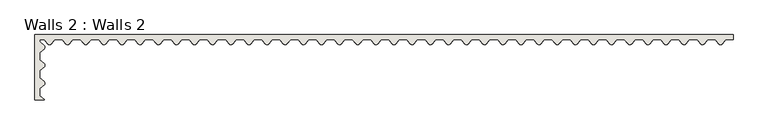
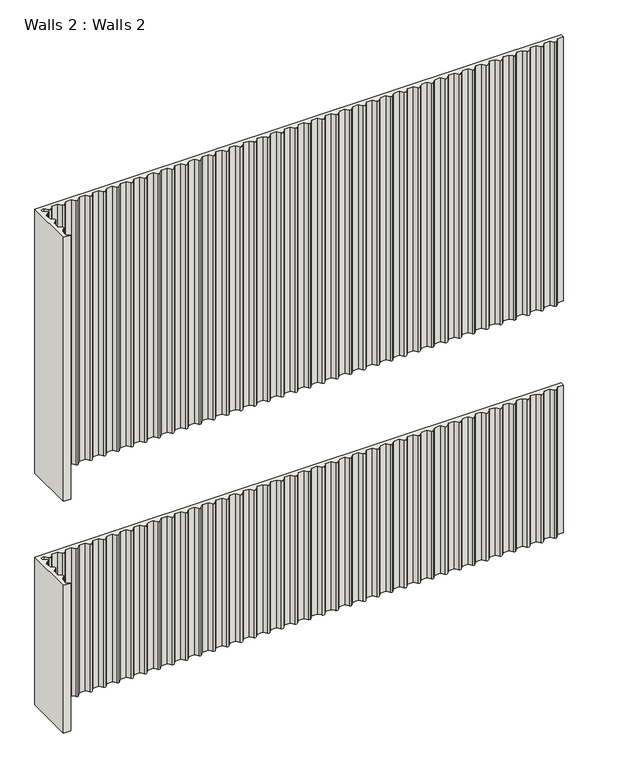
"""IFC4 building model written with IfcOpenShell, lengths in millimetres: wall geometry, Walls 2 : Walls 2."""

from ifc_helpers import new_model, si_unit, point, frame, frame_2d, origin, place, context, project, spatial, polyline, circle_curve, trimmed, segment, composite_curve, outline, extrude, source, transform, mapped, element, save


def walls_2_walls_2_54b32427(model_context):
    return source(origin(), model_context, "Body", "SweptSolid", [
        extrude(outline(composite_curve([segment(polyline([(1690.6584713, -3881.9389803), (6310.6584713, -3881.9389803), (6310.6584713, -3913.7389803), (6262.0428557, -3913.7389803), (6238.5335223, -3941.7563128)]), True, "CONTINUOUS"), segment(trimmed(circle_curve(frame_2d((6227.0428557, -3932.1144987)), 15.0), [point((6238.5335223, -3941.7563128))], [point((6215.552189, -3941.7563128))], False, "CARTESIAN"), True, "CONTINUOUS"), segment(polyline([(6215.552189, -3941.7563128), (6192.0428557, -3913.7389803), (6142.0428557, -3913.7389803), (6118.5335223, -3941.7563128)]), True, "CONTINUOUS"), segment(trimmed(circle_curve(frame_2d((6107.0428557, -3932.1144987)), 15.0), [point((6118.5335223, -3941.7563128))], [point((6095.552189, -3941.7563128))], False, "CARTESIAN"), True, "CONTINUOUS"), segment(polyline([(6095.552189, -3941.7563128), (6072.0428557, -3913.7389803), (6022.0428557, -3913.7389803), (5998.5335223, -3941.7563128)]), True, "CONTINUOUS"), segment(trimmed(circle_curve(frame_2d((5987.0428557, -3932.1144987)), 15.0), [point((5998.5335223, -3941.7563128))], [point((5975.552189, -3941.7563128))], False, "CARTESIAN"), True, "CONTINUOUS"), segment(polyline([(5975.552189, -3941.7563128), (5952.0428557, -3913.7389803), (5902.0428557, -3913.7389803), (5878.5335223, -3941.7563128)]), True, "CONTINUOUS"), segment(trimmed(circle_curve(frame_2d((5867.0428557, -3932.1144987)), 15.0), [point((5878.5335223, -3941.7563128))], [point((5855.552189, -3941.7563128))], False, "CARTESIAN"), True, "CONTINUOUS"), segment(polyline([(5855.552189, -3941.7563128), (5832.0428557, -3913.7389803), (5782.0428557, -3913.7389803), (5758.5335223, -3941.7563128)]), True, "CONTINUOUS"), segment(trimmed(circle_curve(frame_2d((5747.0428557, -3932.1144987)), 15.0), [point((5758.5335223, -3941.7563128))], [point((5735.552189, -3941.7563128))], False, "CARTESIAN"), True, "CONTINUOUS"), segment(polyline([(5735.552189, -3941.7563128), (5712.0428557, -3913.7389803), (5662.0428557, -3913.7389803), (5638.5335223, -3941.7563128)]), True, "CONTINUOUS"), segment(trimmed(circle_curve(frame_2d((5627.0428557, -3932.1144987)), 15.0), [point((5638.5335223, -3941.7563128))], [point((5615.552189, -3941.7563128))], False, "CARTESIAN"), True, "CONTINUOUS"), segment(polyline([(5615.552189, -3941.7563128), (5592.0428557, -3913.7389803), (5542.0428557, -3913.7389803), (5518.5335223, -3941.7563128)]), True, "CONTINUOUS"), segment(trimmed(circle_curve(frame_2d((5507.0428557, -3932.1144987)), 15.0), [point((5518.5335223, -3941.7563128))], [point((5495.552189, -3941.7563128))], False, "CARTESIAN"), True, "CONTINUOUS"), segment(polyline([(5495.552189, -3941.7563128), (5472.0428557, -3913.7389803), (5422.0428557, -3913.7389803), (5398.5335223, -3941.7563128)]), True, "CONTINUOUS"), segment(trimmed(circle_curve(frame_2d((5387.0428557, -3932.1144987)), 15.0), [point((5398.5335223, -3941.7563128))], [point((5375.552189, -3941.7563128))], False, "CARTESIAN"), True, "CONTINUOUS"), segment(polyline([(5375.552189, -3941.7563128), (5352.0428557, -3913.7389803), (5302.0428557, -3913.7389803), (5278.5335223, -3941.7563128)]), True, "CONTINUOUS"), segment(trimmed(circle_curve(frame_2d((5267.0428557, -3932.1144987)), 15.0), [point((5278.5335223, -3941.7563128))], [point((5255.552189, -3941.7563128))], False, "CARTESIAN"), True, "CONTINUOUS"), segment(polyline([(5255.552189, -3941.7563128), (5232.0428557, -3913.7389803), (5182.0428557, -3913.7389803), (5158.5335223, -3941.7563128)]), True, "CONTINUOUS"), segment(trimmed(circle_curve(frame_2d((5147.0428557, -3932.1144987)), 15.0), [point((5158.5335223, -3941.7563128))], [point((5135.552189, -3941.7563128))], False, "CARTESIAN"), True, "CONTINUOUS"), segment(polyline([(5135.552189, -3941.7563128), (5112.0428557, -3913.7389803), (5062.0428557, -3913.7389803), (5038.5335223, -3941.7563128)]), True, "CONTINUOUS"), segment(trimmed(circle_curve(frame_2d((5027.0428557, -3932.1144987)), 15.0), [point((5038.5335223, -3941.7563128))], [point((5015.552189, -3941.7563128))], False, "CARTESIAN"), True, "CONTINUOUS"), segment(polyline([(5015.552189, -3941.7563128), (4992.0428557, -3913.7389803), (4942.0428557, -3913.7389803), (4918.5335223, -3941.7563128)]), True, "CONTINUOUS"), segment(trimmed(circle_curve(frame_2d((4907.0428557, -3932.1144987)), 15.0), [point((4918.5335223, -3941.7563128))], [point((4895.552189, -3941.7563128))], False, "CARTESIAN"), True, "CONTINUOUS"), segment(polyline([(4895.552189, -3941.7563128), (4872.0428557, -3913.7389803), (4822.0428557, -3913.7389803), (4798.5335223, -3941.7563128)]), True, "CONTINUOUS"), segment(trimmed(circle_curve(frame_2d((4787.0428557, -3932.1144987)), 15.0), [point((4798.5335223, -3941.7563128))], [point((4775.552189, -3941.7563128))], False, "CARTESIAN"), True, "CONTINUOUS"), segment(polyline([(4775.552189, -3941.7563128), (4752.0428557, -3913.7389803), (4702.0428557, -3913.7389803), (4678.5335223, -3941.7563128)]), True, "CONTINUOUS"), segment(trimmed(circle_curve(frame_2d((4667.0428557, -3932.1144987)), 15.0), [point((4678.5335223, -3941.7563128))], [point((4655.552189, -3941.7563128))], False, "CARTESIAN"), True, "CONTINUOUS"), segment(polyline([(4655.552189, -3941.7563128), (4632.0428557, -3913.7389803), (4582.0428557, -3913.7389803), (4558.5335223, -3941.7563128)]), True, "CONTINUOUS"), segment(trimmed(circle_curve(frame_2d((4547.0428557, -3932.1144987)), 15.0), [point((4558.5335223, -3941.7563128))], [point((4535.552189, -3941.7563128))], False, "CARTESIAN"), True, "CONTINUOUS"), segment(polyline([(4535.552189, -3941.7563128), (4512.0428557, -3913.7389803), (4462.0428557, -3913.7389803), (4438.5335223, -3941.7563128)]), True, "CONTINUOUS"), segment(trimmed(circle_curve(frame_2d((4427.0428557, -3932.1144987)), 15.0), [point((4438.5335223, -3941.7563128))], [point((4415.552189, -3941.7563128))], False, "CARTESIAN"), True, "CONTINUOUS"), segment(polyline([(4415.552189, -3941.7563128), (4392.0428557, -3913.7389803), (4342.0428557, -3913.7389803), (4318.5335223, -3941.7563128)]), True, "CONTINUOUS"), segment(trimmed(circle_curve(frame_2d((4307.0428557, -3932.1144987)), 15.0), [point((4318.5335223, -3941.7563128))], [point((4295.552189, -3941.7563128))], False, "CARTESIAN"), True, "CONTINUOUS"), segment(polyline([(4295.552189, -3941.7563128), (4272.0428557, -3913.7389803), (4222.0428557, -3913.7389803), (4198.5335223, -3941.7563128)]), True, "CONTINUOUS"), segment(trimmed(circle_curve(frame_2d((4187.0428557, -3932.1144987)), 15.0), [point((4198.5335223, -3941.7563128))], [point((4175.552189, -3941.7563128))], False, "CARTESIAN"), True, "CONTINUOUS"), segment(polyline([(4175.552189, -3941.7563128), (4152.0428557, -3913.7389803), (4102.0428557, -3913.7389803), (4078.5335223, -3941.7563128)]), True, "CONTINUOUS"), segment(trimmed(circle_curve(frame_2d((4067.0428557, -3932.1144987)), 15.0), [point((4078.5335223, -3941.7563128))], [point((4055.552189, -3941.7563128))], False, "CARTESIAN"), True, "CONTINUOUS"), segment(polyline([(4055.552189, -3941.7563128), (4032.0428557, -3913.7389803), (3982.0428557, -3913.7389803), (3958.5335223, -3941.7563128)]), True, "CONTINUOUS"), segment(trimmed(circle_curve(frame_2d((3947.0428557, -3932.1144987)), 15.0), [point((3958.5335223, -3941.7563128))], [point((3935.552189, -3941.7563128))], False, "CARTESIAN"), True, "CONTINUOUS"), segment(polyline([(3935.552189, -3941.7563128), (3912.0428557, -3913.7389803), (3862.0428557, -3913.7389803), (3838.5335223, -3941.7563128)]), True, "CONTINUOUS"), segment(trimmed(circle_curve(frame_2d((3827.0428557, -3932.1144987)), 15.0), [point((3838.5335223, -3941.7563128))], [point((3815.552189, -3941.7563128))], False, "CARTESIAN"), True, "CONTINUOUS"), segment(polyline([(3815.552189, -3941.7563128), (3792.0428557, -3913.7389803), (3742.0428557, -3913.7389803), (3718.5335223, -3941.7563128)]), True, "CONTINUOUS"), segment(trimmed(circle_curve(frame_2d((3707.0428557, -3932.1144987)), 15.0), [point((3718.5335223, -3941.7563128))], [point((3695.552189, -3941.7563128))], False, "CARTESIAN"), True, "CONTINUOUS"), segment(polyline([(3695.552189, -3941.7563128), (3672.0428557, -3913.7389803), (3622.0428557, -3913.7389803), (3598.5335223, -3941.7563128)]), True, "CONTINUOUS"), segment(trimmed(circle_curve(frame_2d((3587.0428557, -3932.1144987)), 15.0), [point((3598.5335223, -3941.7563128))], [point((3575.552189, -3941.7563128))], False, "CARTESIAN"), True, "CONTINUOUS"), segment(polyline([(3575.552189, -3941.7563128), (3552.0428557, -3913.7389803), (3502.0428557, -3913.7389803), (3478.5335223, -3941.7563128)]), True, "CONTINUOUS"), segment(trimmed(circle_curve(frame_2d((3467.0428557, -3932.1144987)), 15.0), [point((3478.5335223, -3941.7563128))], [point((3455.552189, -3941.7563128))], False, "CARTESIAN"), True, "CONTINUOUS"), segment(polyline([(3455.552189, -3941.7563128), (3432.0428557, -3913.7389803), (3382.0428557, -3913.7389803), (3358.5335223, -3941.7563128)]), True, "CONTINUOUS"), segment(trimmed(circle_curve(frame_2d((3347.0428557, -3932.1144987)), 15.0), [point((3358.5335223, -3941.7563128))], [point((3335.552189, -3941.7563128))], False, "CARTESIAN"), True, "CONTINUOUS"), segment(polyline([(3335.552189, -3941.7563128), (3312.0428557, -3913.7389803), (3262.0428557, -3913.7389803), (3238.5335223, -3941.7563128)]), True, "CONTINUOUS"), segment(trimmed(circle_curve(frame_2d((3227.0428557, -3932.1144987)), 15.0), [point((3238.5335223, -3941.7563128))], [point((3215.552189, -3941.7563128))], False, "CARTESIAN"), True, "CONTINUOUS"), segment(polyline([(3215.552189, -3941.7563128), (3192.0428557, -3913.7389803), (3142.0428557, -3913.7389803), (3118.5335223, -3941.7563128)]), True, "CONTINUOUS"), segment(trimmed(circle_curve(frame_2d((3107.0428557, -3932.1144987)), 15.0), [point((3118.5335223, -3941.7563128))], [point((3095.552189, -3941.7563128))], False, "CARTESIAN"), True, "CONTINUOUS"), segment(polyline([(3095.552189, -3941.7563128), (3072.0428557, -3913.7389803), (3022.0428557, -3913.7389803), (2998.5335223, -3941.7563128)]), True, "CONTINUOUS"), segment(trimmed(circle_curve(frame_2d((2987.0428557, -3932.1144987)), 15.0), [point((2998.5335223, -3941.7563128))], [point((2975.552189, -3941.7563128))], False, "CARTESIAN"), True, "CONTINUOUS"), segment(polyline([(2975.552189, -3941.7563128), (2952.0428557, -3913.7389803), (2902.0428557, -3913.7389803), (2878.5335223, -3941.7563128)]), True, "CONTINUOUS"), segment(trimmed(circle_curve(frame_2d((2867.0428557, -3932.1144987)), 15.0), [point((2878.5335223, -3941.7563128))], [point((2855.552189, -3941.7563128))], False, "CARTESIAN"), True, "CONTINUOUS"), segment(polyline([(2855.552189, -3941.7563128), (2832.0428557, -3913.7389803), (2782.0428557, -3913.7389803), (2758.5335223, -3941.7563128)]), True, "CONTINUOUS"), segment(trimmed(circle_curve(frame_2d((2747.0428557, -3932.1144987)), 15.0), [point((2758.5335223, -3941.7563128))], [point((2735.552189, -3941.7563128))], False, "CARTESIAN"), True, "CONTINUOUS"), segment(polyline([(2735.552189, -3941.7563128), (2712.0428557, -3913.7389803), (2662.0428557, -3913.7389803), (2638.5335223, -3941.7563128)]), True, "CONTINUOUS"), segment(trimmed(circle_curve(frame_2d((2627.0428557, -3932.1144987)), 15.0), [point((2638.5335223, -3941.7563128))], [point((2615.552189, -3941.7563128))], False, "CARTESIAN"), True, "CONTINUOUS"), segment(polyline([(2615.552189, -3941.7563128), (2592.0428557, -3913.7389803), (2542.0428557, -3913.7389803), (2518.5335223, -3941.7563128)]), True, "CONTINUOUS"), segment(trimmed(circle_curve(frame_2d((2507.0428557, -3932.1144987)), 15.0), [point((2518.5335223, -3941.7563128))], [point((2495.552189, -3941.7563128))], False, "CARTESIAN"), True, "CONTINUOUS"), segment(polyline([(2495.552189, -3941.7563128), (2472.0428557, -3913.7389803), (2422.0428557, -3913.7389803), (2398.5335223, -3941.7563128)]), True, "CONTINUOUS"), segment(trimmed(circle_curve(frame_2d((2387.0428557, -3932.1144987)), 15.0), [point((2398.5335223, -3941.7563128))], [point((2375.552189, -3941.7563128))], False, "CARTESIAN"), True, "CONTINUOUS"), segment(polyline([(2375.552189, -3941.7563128), (2352.0428557, -3913.7389803), (2302.0428557, -3913.7389803), (2278.5335223, -3941.7563128)]), True, "CONTINUOUS"), segment(trimmed(circle_curve(frame_2d((2267.0428557, -3932.1144987)), 15.0), [point((2278.5335223, -3941.7563128))], [point((2255.552189, -3941.7563128))], False, "CARTESIAN"), True, "CONTINUOUS"), segment(polyline([(2255.552189, -3941.7563128), (2232.0428557, -3913.7389803), (2182.0428557, -3913.7389803), (2158.5335223, -3941.7563128)]), True, "CONTINUOUS"), segment(trimmed(circle_curve(frame_2d((2147.0428557, -3932.1144987)), 15.0), [point((2158.5335223, -3941.7563128))], [point((2135.552189, -3941.7563128))], False, "CARTESIAN"), True, "CONTINUOUS"), segment(polyline([(2135.552189, -3941.7563128), (2112.0428557, -3913.7389803), (2062.0428557, -3913.7389803), (2038.5335223, -3941.7563128)]), True, "CONTINUOUS"), segment(trimmed(circle_curve(frame_2d((2027.0428557, -3932.1144987)), 15.0), [point((2038.5335223, -3941.7563128))], [point((2015.552189, -3941.7563128))], False, "CARTESIAN"), True, "CONTINUOUS"), segment(polyline([(2015.552189, -3941.7563128), (1992.0428557, -3913.7389803), (1942.0428557, -3913.7389803), (1918.5335223, -3941.7563128)]), True, "CONTINUOUS"), segment(trimmed(circle_curve(frame_2d((1907.0428557, -3932.1144987)), 15.0), [point((1918.5335223, -3941.7563128))], [point((1895.552189, -3941.7563128))], False, "CARTESIAN"), True, "CONTINUOUS"), segment(polyline([(1895.552189, -3941.7563128), (1872.0428557, -3913.7389803), (1822.0428557, -3913.7389803), (1798.5335223, -3941.7563128)]), True, "CONTINUOUS"), segment(trimmed(circle_curve(frame_2d((1787.0428557, -3932.1144987)), 15.0), [point((1798.5335223, -3941.7563128))], [point((1775.552189, -3941.7563128))], False, "CARTESIAN"), True, "CONTINUOUS"), segment(polyline([(1775.552189, -3941.7563128), (1752.0428557, -3913.7389803), (1722.4584713, -3913.7389803), (1722.4584713, -3928.3781537), (1751.4142148, -3952.8014551)]), True, "CONTINUOUS"), segment(trimmed(circle_curve(frame_2d((1741.7430261, -3964.2674095)), 15.0), [point((1751.4142148, -3952.8014551))], [point((1751.3554026, -3975.7827132))], False, "CARTESIAN"), True, "CONTINUOUS"), segment(polyline([(1751.3554026, -3975.7827132), (1723.2779984, -3999.2202695), (1723.1500419, -4049.2201058), (1751.1071191, -4072.8010622)]), True, "CONTINUOUS"), segment(trimmed(circle_curve(frame_2d((1741.4359305, -4084.2670165)), 15.0), [point((1751.1071191, -4072.8010622))], [point((1751.0483069, -4095.7823202))], False, "CARTESIAN"), True, "CONTINUOUS"), segment(polyline([(1751.0483069, -4095.7823202), (1723.2779984, -4118.9635291), (1723.1500419, -4168.9633653), (1751.1071191, -4192.5443217)]), True, "CONTINUOUS"), segment(trimmed(circle_curve(frame_2d((1741.4359305, -4204.0102761)), 15.0), [point((1751.1071191, -4192.5443217))], [point((1751.0483069, -4215.5255798))], False, "CARTESIAN"), True, "CONTINUOUS"), segment(polyline([(1751.0483069, -4215.5255798), (1723.2779984, -4238.7067886), (1723.1500419, -4288.7066249), (1751.1071191, -4312.2875813)]), True, "CONTINUOUS"), segment(trimmed(circle_curve(frame_2d((1741.4359305, -4323.7535356)), 15.0), [point((1751.1071191, -4312.2875813))], [point((1753.3910572, -4314.6940133))], False, "CARTESIAN"), True, "CONTINUOUS"), segment(polyline([(1753.3910572, -4314.6940133), (1690.6584713, -4314.6940133), (1690.6584713, -3881.9389803)]), True, "CONTINUOUS")], self_intersect=False)), frame((0.0, 0.0, -2000.0), z_axis=(0.0, 0.0, 1.0), x_axis=(1.0, 0.0, 0.0)), (0.0, 0.0, 1.0), 1370.0),
        extrude(outline(composite_curve([segment(polyline([(1690.6584713, -4314.6940133), (1690.6584713, -3881.9389803), (6310.6584713, -3881.9389803), (6310.6584713, -3913.7389803), (6262.0428557, -3913.7389803), (6238.5335223, -3941.7563128)]), True, "CONTINUOUS"), segment(trimmed(circle_curve(frame_2d((6227.0428557, -3932.1144987)), 15.0), [point((6238.5335223, -3941.7563128))], [point((6215.552189, -3941.7563128))], False, "CARTESIAN"), True, "CONTINUOUS"), segment(polyline([(6215.552189, -3941.7563128), (6192.0428557, -3913.7389803), (6142.0428557, -3913.7389803), (6118.5335223, -3941.7563128)]), True, "CONTINUOUS"), segment(trimmed(circle_curve(frame_2d((6107.0428557, -3932.1144987)), 15.0), [point((6118.5335223, -3941.7563128))], [point((6095.552189, -3941.7563128))], False, "CARTESIAN"), True, "CONTINUOUS"), segment(polyline([(6095.552189, -3941.7563128), (6072.0428557, -3913.7389803), (6022.0428557, -3913.7389803), (5998.5335223, -3941.7563128)]), True, "CONTINUOUS"), segment(trimmed(circle_curve(frame_2d((5987.0428557, -3932.1144987)), 15.0), [point((5998.5335223, -3941.7563128))], [point((5975.552189, -3941.7563128))], False, "CARTESIAN"), True, "CONTINUOUS"), segment(polyline([(5975.552189, -3941.7563128), (5952.0428557, -3913.7389803), (5902.0428557, -3913.7389803), (5878.5335223, -3941.7563128)]), True, "CONTINUOUS"), segment(trimmed(circle_curve(frame_2d((5867.0428557, -3932.1144987)), 15.0), [point((5878.5335223, -3941.7563128))], [point((5855.552189, -3941.7563128))], False, "CARTESIAN"), True, "CONTINUOUS"), segment(polyline([(5855.552189, -3941.7563128), (5832.0428557, -3913.7389803), (5782.0428557, -3913.7389803), (5758.5335223, -3941.7563128)]), True, "CONTINUOUS"), segment(trimmed(circle_curve(frame_2d((5747.0428557, -3932.1144987)), 15.0), [point((5758.5335223, -3941.7563128))], [point((5735.552189, -3941.7563128))], False, "CARTESIAN"), True, "CONTINUOUS"), segment(polyline([(5735.552189, -3941.7563128), (5712.0428557, -3913.7389803), (5662.0428557, -3913.7389803), (5638.5335223, -3941.7563128)]), True, "CONTINUOUS"), segment(trimmed(circle_curve(frame_2d((5627.0428557, -3932.1144987)), 15.0), [point((5638.5335223, -3941.7563128))], [point((5615.552189, -3941.7563128))], False, "CARTESIAN"), True, "CONTINUOUS"), segment(polyline([(5615.552189, -3941.7563128), (5592.0428557, -3913.7389803), (5542.0428557, -3913.7389803), (5518.5335223, -3941.7563128)]), True, "CONTINUOUS"), segment(trimmed(circle_curve(frame_2d((5507.0428557, -3932.1144987)), 15.0), [point((5518.5335223, -3941.7563128))], [point((5495.552189, -3941.7563128))], False, "CARTESIAN"), True, "CONTINUOUS"), segment(polyline([(5495.552189, -3941.7563128), (5472.0428557, -3913.7389803), (5422.0428557, -3913.7389803), (5398.5335223, -3941.7563128)]), True, "CONTINUOUS"), segment(trimmed(circle_curve(frame_2d((5387.0428557, -3932.1144987)), 15.0), [point((5398.5335223, -3941.7563128))], [point((5375.552189, -3941.7563128))], False, "CARTESIAN"), True, "CONTINUOUS"), segment(polyline([(5375.552189, -3941.7563128), (5352.0428557, -3913.7389803), (5302.0428557, -3913.7389803), (5278.5335223, -3941.7563128)]), True, "CONTINUOUS"), segment(trimmed(circle_curve(frame_2d((5267.0428557, -3932.1144987)), 15.0), [point((5278.5335223, -3941.7563128))], [point((5255.552189, -3941.7563128))], False, "CARTESIAN"), True, "CONTINUOUS"), segment(polyline([(5255.552189, -3941.7563128), (5232.0428557, -3913.7389803), (5182.0428557, -3913.7389803), (5158.5335223, -3941.7563128)]), True, "CONTINUOUS"), segment(trimmed(circle_curve(frame_2d((5147.0428557, -3932.1144987)), 15.0), [point((5158.5335223, -3941.7563128))], [point((5135.552189, -3941.7563128))], False, "CARTESIAN"), True, "CONTINUOUS"), segment(polyline([(5135.552189, -3941.7563128), (5112.0428557, -3913.7389803), (5062.0428557, -3913.7389803), (5038.5335223, -3941.7563128)]), True, "CONTINUOUS"), segment(trimmed(circle_curve(frame_2d((5027.0428557, -3932.1144987)), 15.0), [point((5038.5335223, -3941.7563128))], [point((5015.552189, -3941.7563128))], False, "CARTESIAN"), True, "CONTINUOUS"), segment(polyline([(5015.552189, -3941.7563128), (4992.0428557, -3913.7389803), (4942.0428557, -3913.7389803), (4918.5335223, -3941.7563128)]), True, "CONTINUOUS"), segment(trimmed(circle_curve(frame_2d((4907.0428557, -3932.1144987)), 15.0), [point((4918.5335223, -3941.7563128))], [point((4895.552189, -3941.7563128))], False, "CARTESIAN"), True, "CONTINUOUS"), segment(polyline([(4895.552189, -3941.7563128), (4872.0428557, -3913.7389803), (4822.0428557, -3913.7389803), (4798.5335223, -3941.7563128)]), True, "CONTINUOUS"), segment(trimmed(circle_curve(frame_2d((4787.0428557, -3932.1144987)), 15.0), [point((4798.5335223, -3941.7563128))], [point((4775.552189, -3941.7563128))], False, "CARTESIAN"), True, "CONTINUOUS"), segment(polyline([(4775.552189, -3941.7563128), (4752.0428557, -3913.7389803), (4702.0428557, -3913.7389803), (4678.5335223, -3941.7563128)]), True, "CONTINUOUS"), segment(trimmed(circle_curve(frame_2d((4667.0428557, -3932.1144987)), 15.0), [point((4678.5335223, -3941.7563128))], [point((4655.552189, -3941.7563128))], False, "CARTESIAN"), True, "CONTINUOUS"), segment(polyline([(4655.552189, -3941.7563128), (4632.0428557, -3913.7389803), (4582.0428557, -3913.7389803), (4558.5335223, -3941.7563128)]), True, "CONTINUOUS"), segment(trimmed(circle_curve(frame_2d((4547.0428557, -3932.1144987)), 15.0), [point((4558.5335223, -3941.7563128))], [point((4535.552189, -3941.7563128))], False, "CARTESIAN"), True, "CONTINUOUS"), segment(polyline([(4535.552189, -3941.7563128), (4512.0428557, -3913.7389803), (4462.0428557, -3913.7389803), (4438.5335223, -3941.7563128)]), True, "CONTINUOUS"), segment(trimmed(circle_curve(frame_2d((4427.0428557, -3932.1144987)), 15.0), [point((4438.5335223, -3941.7563128))], [point((4415.552189, -3941.7563128))], False, "CARTESIAN"), True, "CONTINUOUS"), segment(polyline([(4415.552189, -3941.7563128), (4392.0428557, -3913.7389803), (4342.0428557, -3913.7389803), (4318.5335223, -3941.7563128)]), True, "CONTINUOUS"), segment(trimmed(circle_curve(frame_2d((4307.0428557, -3932.1144987)), 15.0), [point((4318.5335223, -3941.7563128))], [point((4295.552189, -3941.7563128))], False, "CARTESIAN"), True, "CONTINUOUS"), segment(polyline([(4295.552189, -3941.7563128), (4272.0428557, -3913.7389803), (4222.0428557, -3913.7389803), (4198.5335223, -3941.7563128)]), True, "CONTINUOUS"), segment(trimmed(circle_curve(frame_2d((4187.0428557, -3932.1144987)), 15.0), [point((4198.5335223, -3941.7563128))], [point((4175.552189, -3941.7563128))], False, "CARTESIAN"), True, "CONTINUOUS"), segment(polyline([(4175.552189, -3941.7563128), (4152.0428557, -3913.7389803), (4102.0428557, -3913.7389803), (4078.5335223, -3941.7563128)]), True, "CONTINUOUS"), segment(trimmed(circle_curve(frame_2d((4067.0428557, -3932.1144987)), 15.0), [point((4078.5335223, -3941.7563128))], [point((4055.552189, -3941.7563128))], False, "CARTESIAN"), True, "CONTINUOUS"), segment(polyline([(4055.552189, -3941.7563128), (4032.0428557, -3913.7389803), (3982.0428557, -3913.7389803), (3958.5335223, -3941.7563128)]), True, "CONTINUOUS"), segment(trimmed(circle_curve(frame_2d((3947.0428557, -3932.1144987)), 15.0), [point((3958.5335223, -3941.7563128))], [point((3935.552189, -3941.7563128))], False, "CARTESIAN"), True, "CONTINUOUS"), segment(polyline([(3935.552189, -3941.7563128), (3912.0428557, -3913.7389803), (3862.0428557, -3913.7389803), (3838.5335223, -3941.7563128)]), True, "CONTINUOUS"), segment(trimmed(circle_curve(frame_2d((3827.0428557, -3932.1144987)), 15.0), [point((3838.5335223, -3941.7563128))], [point((3815.552189, -3941.7563128))], False, "CARTESIAN"), True, "CONTINUOUS"), segment(polyline([(3815.552189, -3941.7563128), (3792.0428557, -3913.7389803), (3742.0428557, -3913.7389803), (3718.5335223, -3941.7563128)]), True, "CONTINUOUS"), segment(trimmed(circle_curve(frame_2d((3707.0428557, -3932.1144987)), 15.0), [point((3718.5335223, -3941.7563128))], [point((3695.552189, -3941.7563128))], False, "CARTESIAN"), True, "CONTINUOUS"), segment(polyline([(3695.552189, -3941.7563128), (3672.0428557, -3913.7389803), (3622.0428557, -3913.7389803), (3598.5335223, -3941.7563128)]), True, "CONTINUOUS"), segment(trimmed(circle_curve(frame_2d((3587.0428557, -3932.1144987)), 15.0), [point((3598.5335223, -3941.7563128))], [point((3575.552189, -3941.7563128))], False, "CARTESIAN"), True, "CONTINUOUS"), segment(polyline([(3575.552189, -3941.7563128), (3552.0428557, -3913.7389803), (3502.0428557, -3913.7389803), (3478.5335223, -3941.7563128)]), True, "CONTINUOUS"), segment(trimmed(circle_curve(frame_2d((3467.0428557, -3932.1144987)), 15.0), [point((3478.5335223, -3941.7563128))], [point((3455.552189, -3941.7563128))], False, "CARTESIAN"), True, "CONTINUOUS"), segment(polyline([(3455.552189, -3941.7563128), (3432.0428557, -3913.7389803), (3382.0428557, -3913.7389803), (3358.5335223, -3941.7563128)]), True, "CONTINUOUS"), segment(trimmed(circle_curve(frame_2d((3347.0428557, -3932.1144987)), 15.0), [point((3358.5335223, -3941.7563128))], [point((3335.552189, -3941.7563128))], False, "CARTESIAN"), True, "CONTINUOUS"), segment(polyline([(3335.552189, -3941.7563128), (3312.0428557, -3913.7389803), (3262.0428557, -3913.7389803), (3238.5335223, -3941.7563128)]), True, "CONTINUOUS"), segment(trimmed(circle_curve(frame_2d((3227.0428557, -3932.1144987)), 15.0), [point((3238.5335223, -3941.7563128))], [point((3215.552189, -3941.7563128))], False, "CARTESIAN"), True, "CONTINUOUS"), segment(polyline([(3215.552189, -3941.7563128), (3192.0428557, -3913.7389803), (3142.0428557, -3913.7389803), (3118.5335223, -3941.7563128)]), True, "CONTINUOUS"), segment(trimmed(circle_curve(frame_2d((3107.0428557, -3932.1144987)), 15.0), [point((3118.5335223, -3941.7563128))], [point((3095.552189, -3941.7563128))], False, "CARTESIAN"), True, "CONTINUOUS"), segment(polyline([(3095.552189, -3941.7563128), (3072.0428557, -3913.7389803), (3022.0428557, -3913.7389803), (2998.5335223, -3941.7563128)]), True, "CONTINUOUS"), segment(trimmed(circle_curve(frame_2d((2987.0428557, -3932.1144987)), 15.0), [point((2998.5335223, -3941.7563128))], [point((2975.552189, -3941.7563128))], False, "CARTESIAN"), True, "CONTINUOUS"), segment(polyline([(2975.552189, -3941.7563128), (2952.0428557, -3913.7389803), (2902.0428557, -3913.7389803), (2878.5335223, -3941.7563128)]), True, "CONTINUOUS"), segment(trimmed(circle_curve(frame_2d((2867.0428557, -3932.1144987)), 15.0), [point((2878.5335223, -3941.7563128))], [point((2855.552189, -3941.7563128))], False, "CARTESIAN"), True, "CONTINUOUS"), segment(polyline([(2855.552189, -3941.7563128), (2832.0428557, -3913.7389803), (2782.0428557, -3913.7389803), (2758.5335223, -3941.7563128)]), True, "CONTINUOUS"), segment(trimmed(circle_curve(frame_2d((2747.0428557, -3932.1144987)), 15.0), [point((2758.5335223, -3941.7563128))], [point((2735.552189, -3941.7563128))], False, "CARTESIAN"), True, "CONTINUOUS"), segment(polyline([(2735.552189, -3941.7563128), (2712.0428557, -3913.7389803), (2662.0428557, -3913.7389803), (2638.5335223, -3941.7563128)]), True, "CONTINUOUS"), segment(trimmed(circle_curve(frame_2d((2627.0428557, -3932.1144987)), 15.0), [point((2638.5335223, -3941.7563128))], [point((2615.552189, -3941.7563128))], False, "CARTESIAN"), True, "CONTINUOUS"), segment(polyline([(2615.552189, -3941.7563128), (2592.0428557, -3913.7389803), (2542.0428557, -3913.7389803), (2518.5335223, -3941.7563128)]), True, "CONTINUOUS"), segment(trimmed(circle_curve(frame_2d((2507.0428557, -3932.1144987)), 15.0), [point((2518.5335223, -3941.7563128))], [point((2495.552189, -3941.7563128))], False, "CARTESIAN"), True, "CONTINUOUS"), segment(polyline([(2495.552189, -3941.7563128), (2472.0428557, -3913.7389803), (2422.0428557, -3913.7389803), (2398.5335223, -3941.7563128)]), True, "CONTINUOUS"), segment(trimmed(circle_curve(frame_2d((2387.0428557, -3932.1144987)), 15.0), [point((2398.5335223, -3941.7563128))], [point((2375.552189, -3941.7563128))], False, "CARTESIAN"), True, "CONTINUOUS"), segment(polyline([(2375.552189, -3941.7563128), (2352.0428557, -3913.7389803), (2302.0428557, -3913.7389803), (2278.5335223, -3941.7563128)]), True, "CONTINUOUS"), segment(trimmed(circle_curve(frame_2d((2267.0428557, -3932.1144987)), 15.0), [point((2278.5335223, -3941.7563128))], [point((2255.552189, -3941.7563128))], False, "CARTESIAN"), True, "CONTINUOUS"), segment(polyline([(2255.552189, -3941.7563128), (2232.0428557, -3913.7389803), (2182.0428557, -3913.7389803), (2158.5335223, -3941.7563128)]), True, "CONTINUOUS"), segment(trimmed(circle_curve(frame_2d((2147.0428557, -3932.1144987)), 15.0), [point((2158.5335223, -3941.7563128))], [point((2135.552189, -3941.7563128))], False, "CARTESIAN"), True, "CONTINUOUS"), segment(polyline([(2135.552189, -3941.7563128), (2112.0428557, -3913.7389803), (2062.0428557, -3913.7389803), (2038.5335223, -3941.7563128)]), True, "CONTINUOUS"), segment(trimmed(circle_curve(frame_2d((2027.0428557, -3932.1144987)), 15.0), [point((2038.5335223, -3941.7563128))], [point((2015.552189, -3941.7563128))], False, "CARTESIAN"), True, "CONTINUOUS"), segment(polyline([(2015.552189, -3941.7563128), (1992.0428557, -3913.7389803), (1942.0428557, -3913.7389803), (1918.5335223, -3941.7563128)]), True, "CONTINUOUS"), segment(trimmed(circle_curve(frame_2d((1907.0428557, -3932.1144987)), 15.0), [point((1918.5335223, -3941.7563128))], [point((1895.552189, -3941.7563128))], False, "CARTESIAN"), True, "CONTINUOUS"), segment(polyline([(1895.552189, -3941.7563128), (1872.0428557, -3913.7389803), (1822.0428557, -3913.7389803), (1798.5335223, -3941.7563128)]), True, "CONTINUOUS"), segment(trimmed(circle_curve(frame_2d((1787.0428557, -3932.1144987)), 15.0), [point((1798.5335223, -3941.7563128))], [point((1775.552189, -3941.7563128))], False, "CARTESIAN"), True, "CONTINUOUS"), segment(polyline([(1775.552189, -3941.7563128), (1752.0428557, -3913.7389803), (1722.4584713, -3913.7389803), (1722.4584713, -3928.3781537), (1751.4142148, -3952.8014551)]), True, "CONTINUOUS"), segment(trimmed(circle_curve(frame_2d((1741.7430261, -3964.2674095)), 15.0), [point((1751.4142148, -3952.8014551))], [point((1751.3554026, -3975.7827132))], False, "CARTESIAN"), True, "CONTINUOUS"), segment(polyline([(1751.3554026, -3975.7827132), (1723.2779984, -3999.2202695), (1723.1500419, -4049.2201058), (1751.1071191, -4072.8010622)]), True, "CONTINUOUS"), segment(trimmed(circle_curve(frame_2d((1741.4359305, -4084.2670165)), 15.0), [point((1751.1071191, -4072.8010622))], [point((1751.0483069, -4095.7823202))], False, "CARTESIAN"), True, "CONTINUOUS"), segment(polyline([(1751.0483069, -4095.7823202), (1723.2779984, -4118.9635291), (1723.1500419, -4168.9633653), (1751.1071191, -4192.5443217)]), True, "CONTINUOUS"), segment(trimmed(circle_curve(frame_2d((1741.4359305, -4204.0102761)), 15.0), [point((1751.1071191, -4192.5443217))], [point((1751.0483069, -4215.5255798))], False, "CARTESIAN"), True, "CONTINUOUS"), segment(polyline([(1751.0483069, -4215.5255798), (1723.2779984, -4238.7067886), (1723.1500419, -4288.7066249), (1751.1071191, -4312.2875813)]), True, "CONTINUOUS"), segment(trimmed(circle_curve(frame_2d((1741.4359305, -4323.7535356)), 15.0), [point((1751.1071191, -4312.2875813))], [point((1753.3910572, -4314.6940133))], False, "CARTESIAN"), True, "CONTINUOUS"), segment(polyline([(1753.3910572, -4314.6940133), (1690.6584713, -4314.6940133)]), True, "CONTINUOUS")], self_intersect=False)), frame((0.0, 0.0, 150.0), z_axis=(0.0, 0.0, 1.0), x_axis=(1.0, 0.0, 0.0)), (0.0, 0.0, 1.0), 2450.0),
    ])


if __name__ == "__main__":
    model = new_model("IFC4")
    model_context = context("Model", 3, world=origin())
    ifc_project = project(units=[si_unit("LENGTHUNIT", "METRE", prefix="MILLI")], contexts=[model_context])
    site = spatial("IfcSite", under=ifc_project)
    building = spatial("IfcBuilding", under=site)
    placement = place(None, origin())
    walls_2_walls_2_shape = walls_2_walls_2_54b32427(model_context)
    element("IfcWall", 1, ObjectType="Walls 2 : Walls 2", at=placement, inside=building, context=model_context, shape_type="MappedRepresentation", body=[
        mapped(walls_2_walls_2_shape, transform((0.0, 0.0, 0.0), x_axis=(1.0, 0.0, 0.0), y_axis=(0.0, 1.0, 0.0), z_axis=(0.0, 0.0, 1.0))),
    ])
    save(model, "model.ifc")
